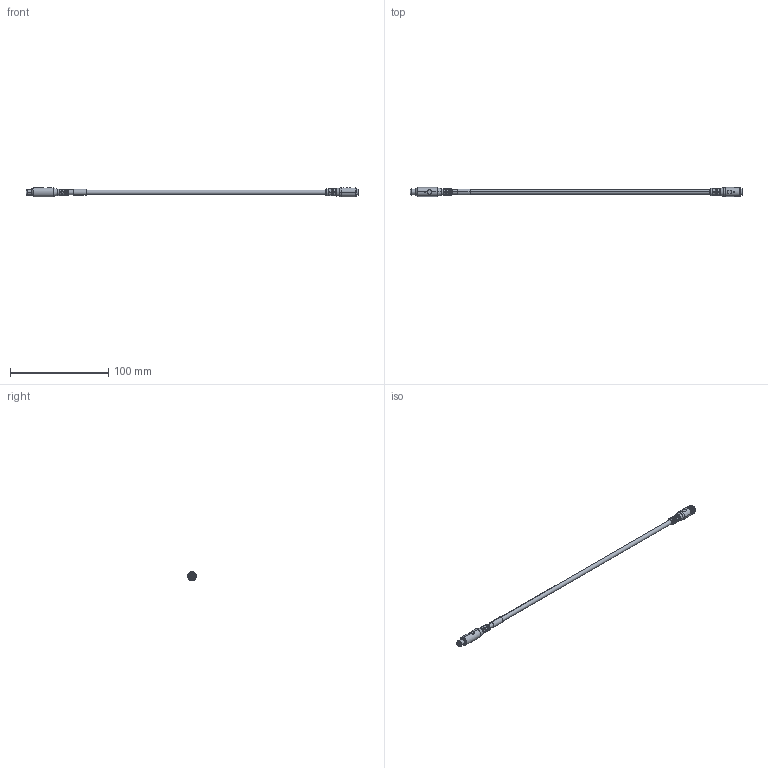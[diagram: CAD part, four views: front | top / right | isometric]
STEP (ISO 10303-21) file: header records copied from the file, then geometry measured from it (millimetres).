
FILE_DESCRIPTION((''),'2;1');
FILE_NAME('889P-S3UBPG-2_ASM','2015-04-03T',('20066374'),(''),'PRO/ENGINEER BY PARAMETRIC TECHNOLOGY CORPORATION, 2009140','PRO/ENGINEER BY PARAMETRIC TECHNOLOGY CORPORATION, 2009140','');
FILE_SCHEMA(('CONFIG_CONTROL_DESIGN'));
Length unit declared in the file: inch
Products named in the file (3): 889P-S3AB-2; 889P-G3AB-2; 889P-S3UBPG-2_ASM
Assembly tree (2 placements, depth 2):
  889P-S3UBPG-2_ASM
    889P-S3AB-2
    889P-G3AB-2
Bounding box: 338.58 x 9.27 x 9.84 mm (x, y, z)
Volume: 8054.8 mm3; surface area: 7494.1 mm2
Topology: 5 solids, 6 shells, 541 faces, 1364 edges, 857 vertices
Faces by surface type: cylinder 258, plane 155, cone 94, torus 34
Entity records: 17104 total; most frequent: CARTESIAN_POINT 4372, ORIENTED_EDGE 2728, DIRECTION 2564, EDGE_CURVE 1364, AXIS2_PLACEMENT_3D 1007, VERTEX_POINT 857, EDGE_LOOP 565, VECTOR 550
